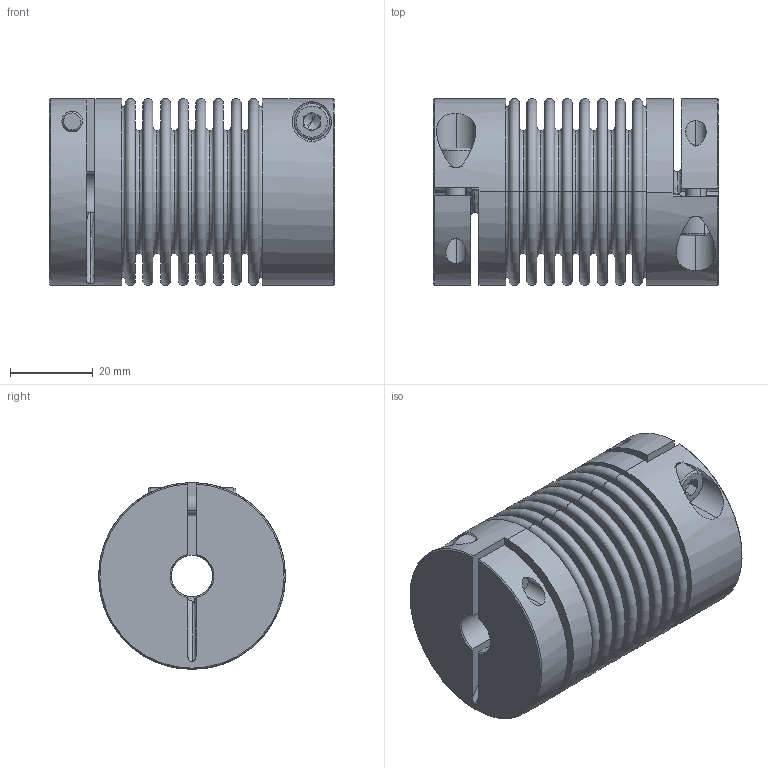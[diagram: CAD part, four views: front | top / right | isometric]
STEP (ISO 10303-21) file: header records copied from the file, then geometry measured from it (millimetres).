
FILE_DESCRIPTION (( 'STEP AP214' ), '1' );
FILE_NAME ('KB4C-18-67.STEP', '2011-01-19T17:00:27', ( '' ), ( 'KAPCAD' ), 'SwSTEP 2.0', 'SolidWorks 2002296', '' );
FILE_SCHEMA (( 'AUTOMOTIVE_DESIGN' ));
Length unit declared in the file: millimetre
Products named in the file (4): KB4C-18-67; Socket Head Cap Screw_DIN_DIN 912 M5 x 16 --- 16N; BL18_Standard; KN18C_Standard
Assembly tree (5 placements, depth 2):
  KB4C-18-67
    Socket Head Cap Screw_DIN_DIN 912 M5 x 16 --- 16N  x2
    BL18_Standard
    KN18C_Standard  x2
Bounding box: 68.78 x 45.01 x 45.01 mm (x, y, z)
Volume: 53116.2 mm3; surface area: 50367.7 mm2
Topology: 5 solids, 5 shells, 248 faces, 546 edges, 338 vertices
Faces by surface type: torus 112, plane 80, cylinder 38, cone 16, bspline 2
Entity records: 5916 total; most frequent: CARTESIAN_POINT 1426, DIRECTION 1090, ORIENTED_EDGE 806, AXIS2_PLACEMENT_3D 514, EDGE_CURVE 403, CIRCLE 317, VERTEX_POINT 251, EDGE_LOOP 230
